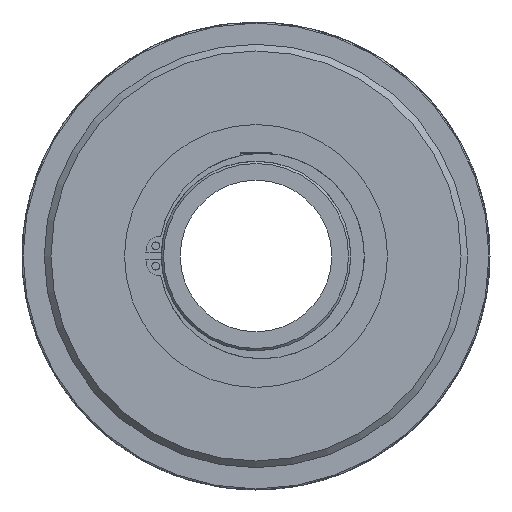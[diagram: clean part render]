
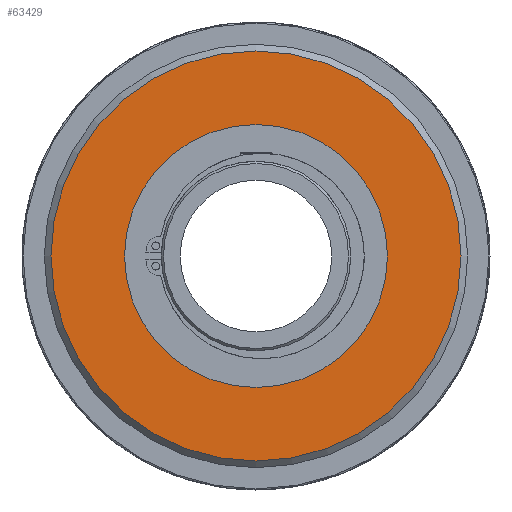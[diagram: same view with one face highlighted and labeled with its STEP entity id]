
A CAD part, left-side view. The second image highlights one B-rep face of the part: STEP entity #63429.
In plain terms, the highlighted planar face has unit normal (-1, 0, 0).
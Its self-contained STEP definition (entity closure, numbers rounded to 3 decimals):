
#9880=FACE_BOUND('',#15183,.T.);
#12215=FACE_OUTER_BOUND('',#15182,.T.);
#15182=EDGE_LOOP('',(#54095));
#15183=EDGE_LOOP('',(#54096));
#21060=CIRCLE('',#71503,92.);
#21061=CIRCLE('',#71505,59.);
#27131=VERTEX_POINT('',#110311);
#27132=VERTEX_POINT('',#110315);
#36341=EDGE_CURVE('',#27131,#27131,#21060,.T.);
#36343=EDGE_CURVE('',#27132,#27132,#21061,.T.);
#54095=ORIENTED_EDGE('',*,*,#36341,.F.);
#54096=ORIENTED_EDGE('',*,*,#36343,.F.);
#58106=PLANE('',#71504);
#63429=ADVANCED_FACE('',(#12215,#9880),#58106,.T.);
#71503=AXIS2_PLACEMENT_3D('',#110312,#90475,#90476);
#71504=AXIS2_PLACEMENT_3D('',#110314,#90478,#90479);
#71505=AXIS2_PLACEMENT_3D('',#110316,#90480,#90481);
#90475=DIRECTION('center_axis',(1.,0.,0.));
#90476=DIRECTION('ref_axis',(0.,-1.,0.));
#90478=DIRECTION('center_axis',(-1.,0.,0.));
#90479=DIRECTION('ref_axis',(0.,0.,1.));
#90480=DIRECTION('center_axis',(-1.,0.,0.));
#90481=DIRECTION('ref_axis',(0.,0.,1.));
#110311=CARTESIAN_POINT('',(-22.,92.,0.));
#110312=CARTESIAN_POINT('Origin',(-22.,0.,0.));
#110314=CARTESIAN_POINT('Origin',(-22.,59.,0.));
#110315=CARTESIAN_POINT('',(-22.,-59.,0.));
#110316=CARTESIAN_POINT('Origin',(-22.,0.,0.));
